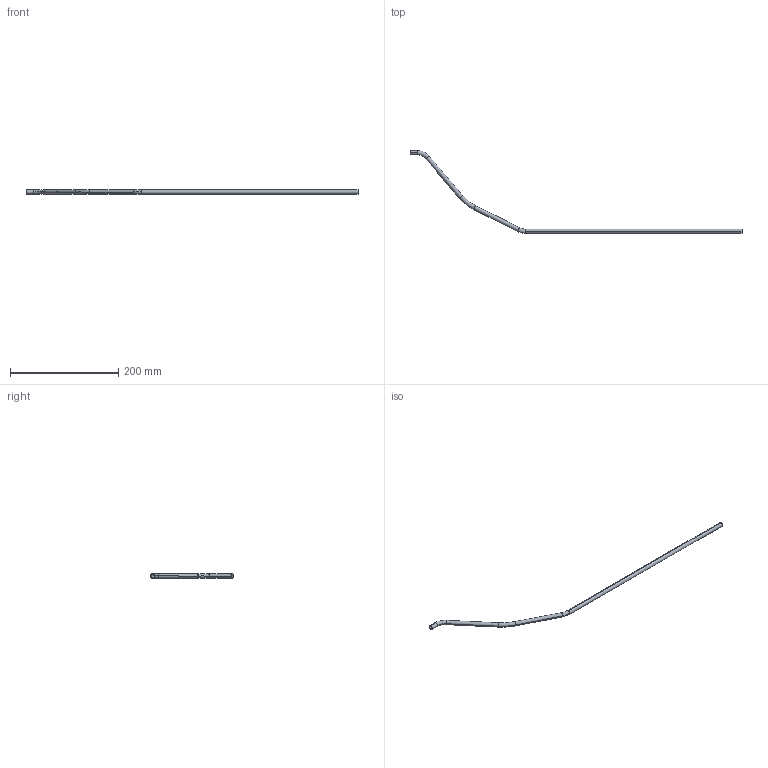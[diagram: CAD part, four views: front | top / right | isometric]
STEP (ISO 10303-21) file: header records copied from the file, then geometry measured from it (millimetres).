
FILE_DESCRIPTION (( 'STEP AP203' ), '1' );
FILE_NAME ('KPKPA_6-4.step', '2011-08-08T11:47:55', ( '' ), ( '' ), 'SwSTEP 2.0', 'SolidWorks 2011', '' );
FILE_SCHEMA (( 'CONFIG_CONTROL_DESIGN' ));
Length unit declared in the file: millimetre
Products named in the file (1): KPKPA_6-4
Bounding box: 614.2 x 153.4 x 8 mm (x, y, z)
Volume: 14684.9 mm3; surface area: 29413.8 mm2
Topology: 1 solids, 1 shells, 30 faces, 68 edges, 40 vertices
Faces by surface type: cylinder 16, torus 12, plane 2
Entity records: 937 total; most frequent: DIRECTION 182, CARTESIAN_POINT 139, ORIENTED_EDGE 136, AXIS2_PLACEMENT_3D 83, EDGE_CURVE 68, CIRCLE 52, VERTEX_POINT 40, EDGE_LOOP 32
